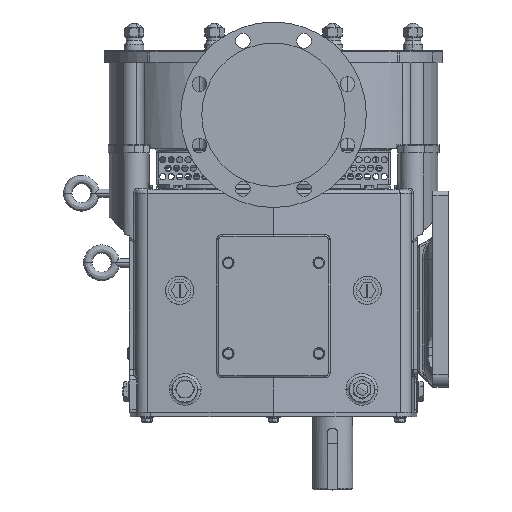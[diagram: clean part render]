
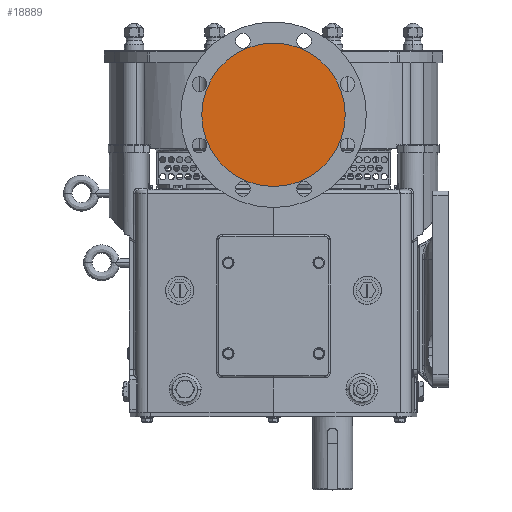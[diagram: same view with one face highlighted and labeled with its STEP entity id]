
A CAD part, left-side view. The second image highlights one B-rep face of the part: STEP entity #18889.
In plain terms, the highlighted planar face has unit normal (-1, 0, 0).
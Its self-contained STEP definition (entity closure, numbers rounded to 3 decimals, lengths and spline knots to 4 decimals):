
#4999 = AXIS2_PLACEMENT_3D ( 'NONE', #28315, #84128, #36315 ) ;
#7410 = DIRECTION ( 'NONE',  ( 1., 0., 0. ) ) ;
#10127 = FACE_OUTER_BOUND ( 'NONE', #101484, .T. ) ;
#18889 = ADVANCED_FACE ( 'NONE', ( #10127 ), #77949, .T. ) ;
#28315 = CARTESIAN_POINT ( 'NONE',  ( -8., -3.5, 0.466 ) ) ;
#28815 = VERTEX_POINT ( 'NONE', #36027 ) ;
#36027 = CARTESIAN_POINT ( 'NONE',  ( -8., -7.75, 0.466 ) ) ;
#36315 = DIRECTION ( 'NONE',  ( 0., 1., 0. ) ) ;
#36848 = CIRCLE ( 'NONE', #4999, 4.25 ) ;
#41109 = CIRCLE ( 'NONE', #83387, 4.25 ) ;
#44459 = EDGE_CURVE ( 'NONE', #74666, #28815, #41109, .T. ) ;
#54213 = DIRECTION ( 'NONE',  ( 0., -1., 0. ) ) ;
#55244 = CARTESIAN_POINT ( 'NONE',  ( -8., -3.5, 0.466 ) ) ;
#60648 = ORIENTED_EDGE ( 'NONE', *, *, #89922, .F. ) ;
#63260 = DIRECTION ( 'NONE',  ( 0., 1., 0. ) ) ;
#74666 = VERTEX_POINT ( 'NONE', #99643 ) ;
#77949 = PLANE ( 'NONE',  #99287 ) ;
#83387 = AXIS2_PLACEMENT_3D ( 'NONE', #55244, #7410, #63260 ) ;
#84128 = DIRECTION ( 'NONE',  ( 1., 0., 0. ) ) ;
#85993 = CARTESIAN_POINT ( 'NONE',  ( -8., -7.75, 0.466 ) ) ;
#89922 = EDGE_CURVE ( 'NONE', #28815, #74666, #36848, .T. ) ;
#94044 = ORIENTED_EDGE ( 'NONE', *, *, #44459, .F. ) ;
#99287 = AXIS2_PLACEMENT_3D ( 'NONE', #85993, #102135, #54213 ) ;
#99643 = CARTESIAN_POINT ( 'NONE',  ( -8., 0.75, 0.466 ) ) ;
#101484 = EDGE_LOOP ( 'NONE', ( #94044, #60648 ) ) ;
#102135 = DIRECTION ( 'NONE',  ( -1., 0., 0. ) ) ;
